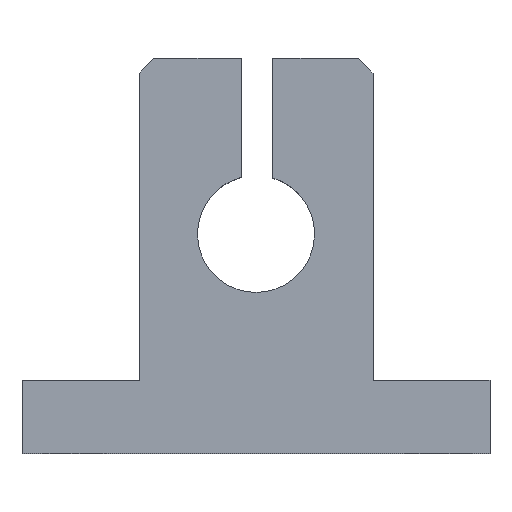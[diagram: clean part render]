
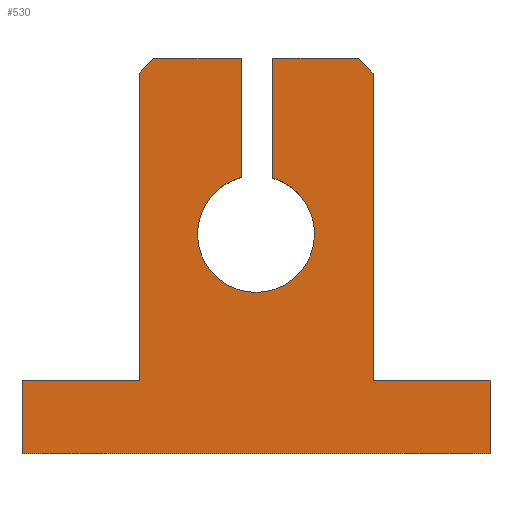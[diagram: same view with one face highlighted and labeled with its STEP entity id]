
A CAD part, top view. The second image highlights one B-rep face of the part: STEP entity #530.
In plain terms, the highlighted planar face has unit normal (0, 0, 1).
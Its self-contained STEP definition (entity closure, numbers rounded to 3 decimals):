
#3 = ORIENTED_EDGE ( 'NONE', *, *, #154, .T. ) ;
#8 = DIRECTION ( 'NONE',  ( 0., 0., 1. ) ) ;
#11 = EDGE_CURVE ( 'NONE', #532, #97, #68, .T. ) ;
#14 = EDGE_CURVE ( 'NONE', #193, #532, #75, .T. ) ;
#18 = EDGE_CURVE ( 'NONE', #933, #97, #224, .T. ) ;
#19 = VECTOR ( 'NONE', #872, 1000. ) ;
#25 = LINE ( 'NONE', #357, #165 ) ;
#36 = LINE ( 'NONE', #821, #702 ) ;
#43 = EDGE_LOOP ( 'NONE', ( #919, #82, #493, #666, #436, #510, #723, #114, #488, #219, #451, #899, #558, #966, #3, #405 ) ) ;
#45 = CARTESIAN_POINT ( 'NONE',  ( -8., 13.5, 5. ) ) ;
#46 = CARTESIAN_POINT ( 'NONE',  ( -7., 13.5, 5. ) ) ;
#62 = DIRECTION ( 'NONE',  ( 1., 0., 0. ) ) ;
#68 = LINE ( 'NONE', #378, #948 ) ;
#74 = CARTESIAN_POINT ( 'NONE',  ( 16., -8.5, 5. ) ) ;
#75 = CIRCLE ( 'NONE', #795, 4. ) ;
#76 = CARTESIAN_POINT ( 'NONE',  ( 0., 1.5, 5. ) ) ;
#77 = VECTOR ( 'NONE', #663, 1000. ) ;
#82 = ORIENTED_EDGE ( 'NONE', *, *, #14, .F. ) ;
#97 = VERTEX_POINT ( 'NONE', #943 ) ;
#105 = CARTESIAN_POINT ( 'NONE',  ( -16., -8.5, 5. ) ) ;
#110 = VERTEX_POINT ( 'NONE', #248 ) ;
#114 = ORIENTED_EDGE ( 'NONE', *, *, #234, .F. ) ;
#117 = VERTEX_POINT ( 'NONE', #869 ) ;
#119 = LINE ( 'NONE', #45, #674 ) ;
#141 = LINE ( 'NONE', #758, #633 ) ;
#154 = EDGE_CURVE ( 'NONE', #803, #933, #259, .T. ) ;
#165 = VECTOR ( 'NONE', #587, 1000. ) ;
#193 = VERTEX_POINT ( 'NONE', #276 ) ;
#194 = CARTESIAN_POINT ( 'NONE',  ( 16., -8.5, 5. ) ) ;
#205 = DIRECTION ( 'NONE',  ( 1., 0., 0. ) ) ;
#209 = CARTESIAN_POINT ( 'NONE',  ( -1., 13.5, 5. ) ) ;
#212 = VECTOR ( 'NONE', #610, 1000. ) ;
#218 = DIRECTION ( 'NONE',  ( 1., 0., 0. ) ) ;
#219 = ORIENTED_EDGE ( 'NONE', *, *, #662, .T. ) ;
#224 = LINE ( 'NONE', #525, #481 ) ;
#226 = CARTESIAN_POINT ( 'NONE',  ( -8., 12.5, 5. ) ) ;
#234 = EDGE_CURVE ( 'NONE', #565, #962, #119, .T. ) ;
#240 = VERTEX_POINT ( 'NONE', #887 ) ;
#248 = CARTESIAN_POINT ( 'NONE',  ( 16., -13.5, 5. ) ) ;
#259 = LINE ( 'NONE', #556, #19 ) ;
#276 = CARTESIAN_POINT ( 'NONE',  ( 4., 1.5, 5. ) ) ;
#289 = CARTESIAN_POINT ( 'NONE',  ( -16., -13.5, 5. ) ) ;
#307 = LINE ( 'NONE', #453, #212 ) ;
#308 = AXIS2_PLACEMENT_3D ( 'NONE', #426, #900, #205 ) ;
#311 = DIRECTION ( 'NONE',  ( -0.707, -0.707, 0. ) ) ;
#324 = DIRECTION ( 'NONE',  ( 0., -1., 0. ) ) ;
#327 = LINE ( 'NONE', #632, #484 ) ;
#336 = EDGE_CURVE ( 'NONE', #240, #193, #606, .T. ) ;
#338 = CARTESIAN_POINT ( 'NONE',  ( 8., 12.5, 5. ) ) ;
#353 = LINE ( 'NONE', #514, #77 ) ;
#356 = VERTEX_POINT ( 'NONE', #46 ) ;
#357 = CARTESIAN_POINT ( 'NONE',  ( -16., 13.5, 5. ) ) ;
#365 = DIRECTION ( 'NONE',  ( 0., 0., 1. ) ) ;
#368 = EDGE_CURVE ( 'NONE', #110, #918, #353, .T. ) ;
#375 = DIRECTION ( 'NONE',  ( 0., 1., 0. ) ) ;
#378 = CARTESIAN_POINT ( 'NONE',  ( 1.15, -0.85, 5. ) ) ;
#381 = DIRECTION ( 'NONE',  ( 1., 0., 0. ) ) ;
#382 = DIRECTION ( 'NONE',  ( 0., 0., 1. ) ) ;
#386 = EDGE_CURVE ( 'NONE', #742, #110, #141, .T. ) ;
#405 = ORIENTED_EDGE ( 'NONE', *, *, #18, .T. ) ;
#424 = VERTEX_POINT ( 'NONE', #990 ) ;
#426 = CARTESIAN_POINT ( 'NONE',  ( 0., 1.5, 5. ) ) ;
#428 = CARTESIAN_POINT ( 'NONE',  ( 0., 1.5, 5. ) ) ;
#436 = ORIENTED_EDGE ( 'NONE', *, *, #704, .F. ) ;
#450 = DIRECTION ( 'NONE',  ( 1., 0., 0. ) ) ;
#451 = ORIENTED_EDGE ( 'NONE', *, *, #386, .T. ) ;
#453 = CARTESIAN_POINT ( 'NONE',  ( 8., 13.5, 5. ) ) ;
#458 = VECTOR ( 'NONE', #546, 1000. ) ;
#481 = VECTOR ( 'NONE', #768, 1000. ) ;
#484 = VECTOR ( 'NONE', #324, 1000. ) ;
#488 = ORIENTED_EDGE ( 'NONE', *, *, #593, .F. ) ;
#493 = ORIENTED_EDGE ( 'NONE', *, *, #336, .F. ) ;
#510 = ORIENTED_EDGE ( 'NONE', *, *, #854, .T. ) ;
#512 = CARTESIAN_POINT ( 'NONE',  ( -10.25, 10.25, 5. ) ) ;
#514 = CARTESIAN_POINT ( 'NONE',  ( 16., 13.5, 5. ) ) ;
#525 = CARTESIAN_POINT ( 'NONE',  ( -16., 13.5, 5. ) ) ;
#530 = ADVANCED_FACE ( 'NONE', ( #531 ), #1004, .T. ) ;
#531 = FACE_OUTER_BOUND ( 'NONE', #43, .T. ) ;
#532 = VERTEX_POINT ( 'NONE', #1009 ) ;
#539 = CARTESIAN_POINT ( 'NONE',  ( 0., 0., 5. ) ) ;
#543 = EDGE_CURVE ( 'NONE', #803, #424, #307, .T. ) ;
#546 = DIRECTION ( 'NONE',  ( 1., 0., 0. ) ) ;
#555 = LINE ( 'NONE', #105, #458 ) ;
#556 = CARTESIAN_POINT ( 'NONE',  ( 10.25, 10.25, 5. ) ) ;
#558 = ORIENTED_EDGE ( 'NONE', *, *, #560, .F. ) ;
#560 = EDGE_CURVE ( 'NONE', #424, #918, #776, .T. ) ;
#565 = VERTEX_POINT ( 'NONE', #848 ) ;
#575 = CARTESIAN_POINT ( 'NONE',  ( -16., -8.5, 5. ) ) ;
#587 = DIRECTION ( 'NONE',  ( -1., 0., 0. ) ) ;
#593 = EDGE_CURVE ( 'NONE', #757, #565, #555, .T. ) ;
#597 = VECTOR ( 'NONE', #311, 1000. ) ;
#604 = DIRECTION ( 'NONE',  ( 1., 0., 0. ) ) ;
#606 = CIRCLE ( 'NONE', #909, 4. ) ;
#610 = DIRECTION ( 'NONE',  ( 0., -1., 0. ) ) ;
#632 = CARTESIAN_POINT ( 'NONE',  ( -16., 13.5, 5. ) ) ;
#633 = VECTOR ( 'NONE', #62, 1000. ) ;
#662 = EDGE_CURVE ( 'NONE', #757, #742, #327, .T. ) ;
#663 = DIRECTION ( 'NONE',  ( 0., 1., 0. ) ) ;
#666 = ORIENTED_EDGE ( 'NONE', *, *, #710, .F. ) ;
#674 = VECTOR ( 'NONE', #878, 1000. ) ;
#702 = VECTOR ( 'NONE', #989, 1000. ) ;
#704 = EDGE_CURVE ( 'NONE', #857, #117, #36, .T. ) ;
#710 = EDGE_CURVE ( 'NONE', #117, #240, #741, .T. ) ;
#723 = ORIENTED_EDGE ( 'NONE', *, *, #997, .T. ) ;
#741 = CIRCLE ( 'NONE', #308, 4. ) ;
#742 = VERTEX_POINT ( 'NONE', #289 ) ;
#757 = VERTEX_POINT ( 'NONE', #575 ) ;
#758 = CARTESIAN_POINT ( 'NONE',  ( -16., -13.5, 5. ) ) ;
#768 = DIRECTION ( 'NONE',  ( -1., 0., 0. ) ) ;
#776 = LINE ( 'NONE', #74, #851 ) ;
#795 = AXIS2_PLACEMENT_3D ( 'NONE', #76, #382, #604 ) ;
#800 = AXIS2_PLACEMENT_3D ( 'NONE', #539, #8, #450 ) ;
#803 = VERTEX_POINT ( 'NONE', #338 ) ;
#821 = CARTESIAN_POINT ( 'NONE',  ( -1., -0.85, 5. ) ) ;
#848 = CARTESIAN_POINT ( 'NONE',  ( -8., -8.5, 5. ) ) ;
#851 = VECTOR ( 'NONE', #381, 1000. ) ;
#854 = EDGE_CURVE ( 'NONE', #857, #356, #25, .T. ) ;
#857 = VERTEX_POINT ( 'NONE', #209 ) ;
#869 = CARTESIAN_POINT ( 'NONE',  ( -1., 5.373, 5. ) ) ;
#872 = DIRECTION ( 'NONE',  ( -0.707, 0.707, 0. ) ) ;
#878 = DIRECTION ( 'NONE',  ( 0., 1., 0. ) ) ;
#887 = CARTESIAN_POINT ( 'NONE',  ( -4., 1.5, 5. ) ) ;
#899 = ORIENTED_EDGE ( 'NONE', *, *, #368, .T. ) ;
#900 = DIRECTION ( 'NONE',  ( 0., 0., 1. ) ) ;
#909 = AXIS2_PLACEMENT_3D ( 'NONE', #428, #365, #218 ) ;
#916 = LINE ( 'NONE', #512, #597 ) ;
#918 = VERTEX_POINT ( 'NONE', #194 ) ;
#919 = ORIENTED_EDGE ( 'NONE', *, *, #11, .F. ) ;
#933 = VERTEX_POINT ( 'NONE', #1008 ) ;
#943 = CARTESIAN_POINT ( 'NONE',  ( 1.15, 13.5, 5. ) ) ;
#948 = VECTOR ( 'NONE', #375, 1000. ) ;
#962 = VERTEX_POINT ( 'NONE', #226 ) ;
#966 = ORIENTED_EDGE ( 'NONE', *, *, #543, .F. ) ;
#989 = DIRECTION ( 'NONE',  ( 0., -1., 0. ) ) ;
#990 = CARTESIAN_POINT ( 'NONE',  ( 8., -8.5, 5. ) ) ;
#997 = EDGE_CURVE ( 'NONE', #356, #962, #916, .T. ) ;
#1004 = PLANE ( 'NONE',  #800 ) ;
#1008 = CARTESIAN_POINT ( 'NONE',  ( 7., 13.5, 5. ) ) ;
#1009 = CARTESIAN_POINT ( 'NONE',  ( 1.15, 5.331, 5. ) ) ;
